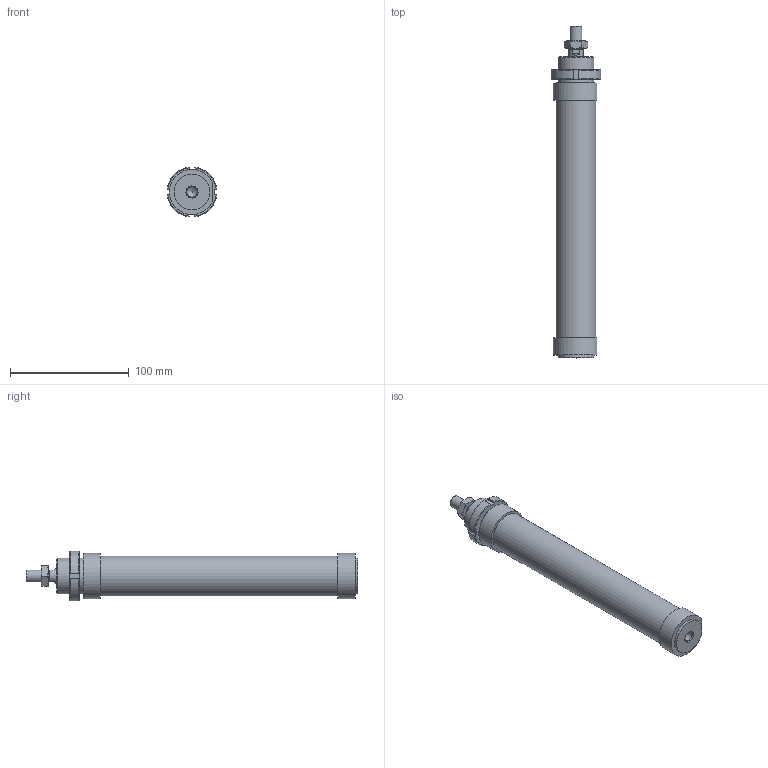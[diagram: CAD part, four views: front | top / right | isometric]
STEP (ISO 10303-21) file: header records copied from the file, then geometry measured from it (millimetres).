
FILE_DESCRIPTION((''),'2;1');
FILE_NAME('I:\Area Tecnica\Disegni\VARIE-3D\Componenti\1280\1281_##_####_#\1281_32_0160.iam.stp','2009-06-04T09:41:12',(''),(''),'Autodesk Inventor 2010','Autodesk Inventor 2010','');
FILE_SCHEMA(('AUTOMOTIVE_DESIGN { 1 0 10303 214 1 1 1 1 }'));
Length unit declared in the file: millimetre
Products named in the file (5): 1281_32_0160; C1281_32_160; S1280_32_160; 1200_32_05; 1200_32_06
Assembly tree (4 placements, depth 2):
  1281_32_0160
    C1281_32_160
    S1280_32_160
    1200_32_05
    1200_32_06
Bounding box: 41.7 x 279.5 x 41.7 mm (x, y, z)
Volume: 234150 mm3; surface area: 50221.5 mm2
Topology: 4 solids, 4 shells, 88 faces, 195 edges, 124 vertices
Faces by surface type: plane 39, cone 22, bspline 14, cylinder 13
Full cylindrical faces by diameter (mm): 8.8 x1, 10 x1, 12 x2, 30 x2, 33.6 x1
Entity records: 2663 total; most frequent: CARTESIAN_POINT 675, DIRECTION 362, ORIENTED_EDGE 338, EDGE_CURVE 169, AXIS2_PLACEMENT_3D 150, EDGE_LOOP 122, VERTEX_POINT 119, STYLED_ITEM 92
